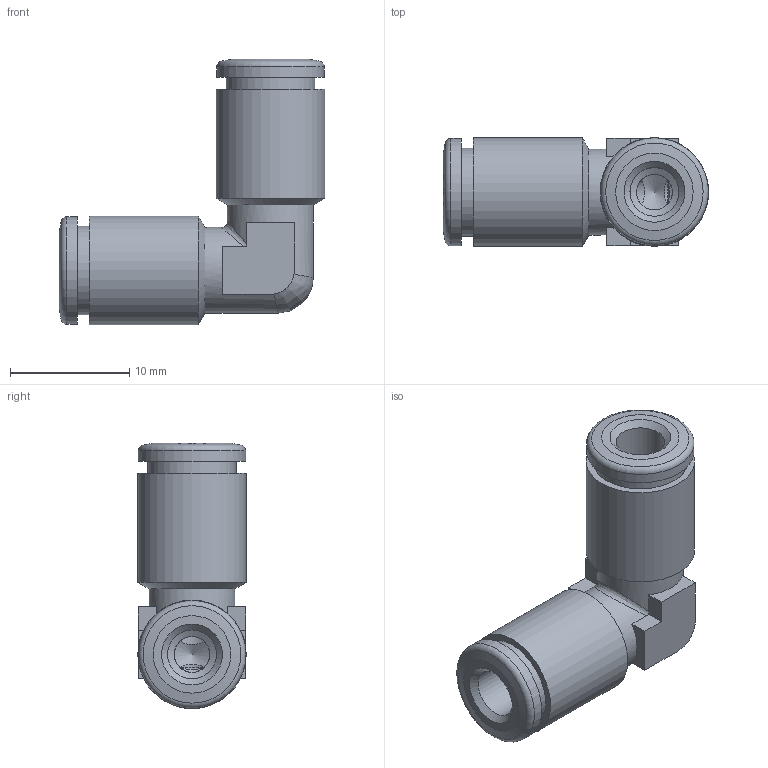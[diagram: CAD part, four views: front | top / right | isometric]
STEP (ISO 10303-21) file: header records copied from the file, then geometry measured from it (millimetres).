
FILE_DESCRIPTION(/* description */ (''),/* implementation_level */ '2;1');
FILE_NAME(/* name */ '200401-ES_STX04_4_4_01.06.16',/* time_stamp */ '2016-06-01T08:39:58+02:00',/* author */ (''),/* organization */ (''),/* preprocessor_version */ 'ST-DEVELOPER v14',/* originating_system */ 'HiCAD 2013 1802.4 Build 509',/* authorisation */ '');
FILE_SCHEMA (('AUTOMOTIVE_DESIGN { 1 0 10303 214 1 1 1 1 }'));
Length unit declared in the file: millimetre
Products named in the file (4): Root; R200401-ES-N; DR4-1_NEU
Assembly tree (3 placements, depth 2):
  Root
    R200401-ES-N
    DR4-1_NEU
    DR4-1_NEU
Bounding box: 22.25 x 9.1 x 22.25 mm (x, y, z)
Volume: 1283.1 mm3; surface area: 2289.4 mm2
Topology: 3 solids, 3 shells, 78 faces, 172 edges, 102 vertices
Faces by surface type: cylinder 28, plane 24, cone 22, bspline 2, torus 2
Full cylindrical faces by diameter (mm): 3 x2, 4.1 x4, 6.4 x2, 7.2 x2, 7.3 x2, 7.4 x2, 7.6 x2, 9 x2, 9.1 x2
Entity records: 5340 total; most frequent: CARTESIAN_POINT 2582, DIRECTION 332, PRESENTATION_STYLE_ASSIGNMENT 243, COLOUR_RGB 241, DRAUGHTING_PRE_DEFINED_CURVE_FONT 240, CURVE_STYLE 240, OVER_RIDING_STYLED_ITEM 240, ORIENTED_EDGE 240
